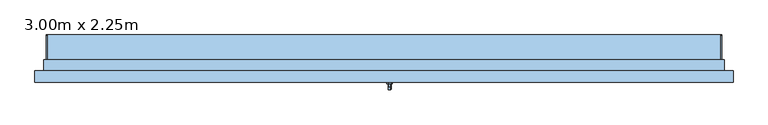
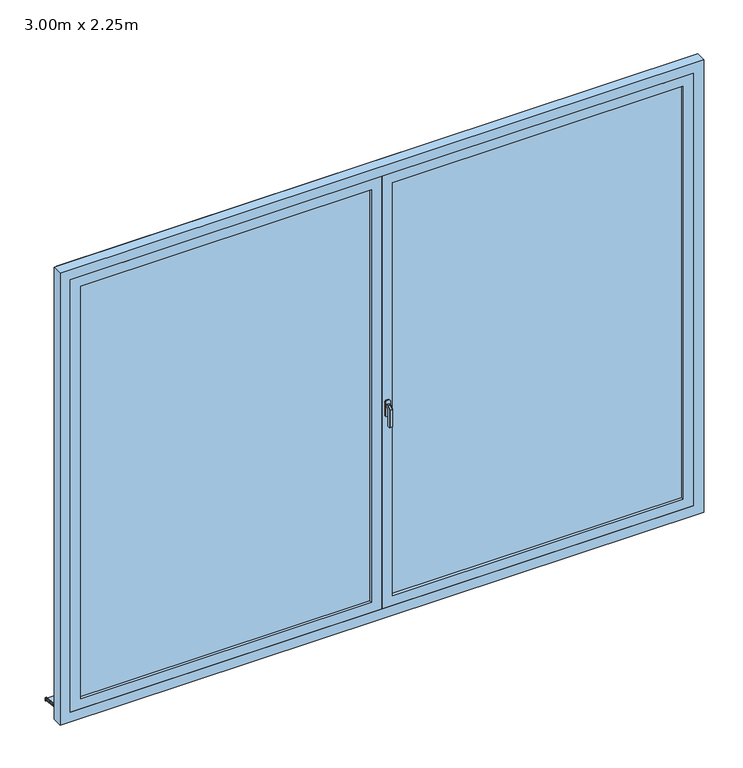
"""IFC4 building model written with IfcOpenShell, lengths in millimetres: window geometry, PF 2 Vantaux - Droits : 3.00m x 2.25m."""

import ifcopenshell
import ifcopenshell.guid

model = None  # the IFC model being written
_history = None  # IfcOwnerHistory: only IFC2X3 demands one
_inside = {}  # id of a spatial element -> (the spatial element, [elements in it])
_under = {}  # id of a project, library or spatial element -> (it, [spatial elements below it])
_declared = {}  # id of a project -> (the project, [libraries it declares])
_typed = {}  # id of a type object -> (the type object, [elements of that type])
_made_of = {}  # id of a material, layer set ... -> (it, [elements and type objects made of it])


def new_model(schema):
    """Start an empty IFC model of exactly this schema.

    Asked for "IFC4X3", IfcOpenShell would pick the latest addendum, in which some entities
    have other attributes; the version numbers below select the first issue.
    IFC2X3 requires an IfcOwnerHistory on every rooted entity: one is made here for all.
    """
    global model, _history
    if schema == "IFC4X3":
        model = ifcopenshell.file(schema_version=(4, 3, 0, 0))
    else:
        model = ifcopenshell.file(schema=schema)
    _inside.clear()
    _under.clear()
    _declared.clear()
    _typed.clear()
    _made_of.clear()
    _history = None
    if model.schema == "IFC2X3":
        org = make("IfcOrganization", Name="unknown")
        user = make(
            "IfcPersonAndOrganization",
            ThePerson=make("IfcPerson", FamilyName="unknown"),
            TheOrganization=org,
        )
        app = make(
            "IfcApplication",
            ApplicationDeveloper=org,
            Version="unknown",
            ApplicationFullName="unknown",
            ApplicationIdentifier="unknown",
        )
        _history = make(
            "IfcOwnerHistory",
            OwningUser=user,
            OwningApplication=app,
            ChangeAction="ADDED",
            CreationDate=0,
        )
    return model


def make(cls, **values):
    """One entity of the class cls with the attributes given. An attribute that is None is left unset."""
    return model.create_entity(
        cls, **{name: value for name, value in values.items() if value is not None}
    )


def rooted(cls, **values):
    """An entity with a GlobalId (a new one), such as an element, a storey or a relation."""
    return make(cls, GlobalId=ifcopenshell.guid.new(), OwnerHistory=_history, **values)


def si_unit(unit_type, name, prefix=None):
    """IfcSIUnit, for example si_unit("LENGTHUNIT", "METRE", prefix="MILLI")."""
    return make("IfcSIUnit", UnitType=unit_type, Prefix=prefix, Name=name)


def assignment(units):
    """IfcUnitAssignment: the units of a project."""
    return None if units is None else make("IfcUnitAssignment", Units=units)


def point(xyz):
    """IfcCartesianPoint."""
    return None if xyz is None else make("IfcCartesianPoint", Coordinates=xyz)


def direction(xyz):
    """IfcDirection."""
    return None if xyz is None else make("IfcDirection", DirectionRatios=xyz)


def frame(location, z_axis=None, x_axis=None):
    """IfcAxis2Placement3D, a coordinate frame: its origin and axes. An axis left out is left unset."""
    return make(
        "IfcAxis2Placement3D",
        Location=point(location),
        Axis=direction(z_axis),
        RefDirection=direction(x_axis),
    )


def frame_2d(location, x_axis=None):
    """IfcAxis2Placement2D, a coordinate frame in the plane: its origin and x axis."""
    return make(
        "IfcAxis2Placement2D", Location=point(location), RefDirection=direction(x_axis)
    )


def origin():
    """The frame at (0, 0, 0) with its axes left unset."""
    return frame((0.0, 0.0, 0.0))


def place(relative_to, where):
    """IfcLocalPlacement: puts the frame where relative to a parent placement (None: the world)."""
    return make(
        "IfcLocalPlacement", PlacementRelTo=relative_to, RelativePlacement=where
    )


def context(
    kind, dimensions, precision=None, world=None, true_north=None, identifier=None
):
    """IfcGeometricRepresentationContext, for example the 3D "Model" context."""
    return make(
        "IfcGeometricRepresentationContext",
        ContextIdentifier=identifier,
        ContextType=kind,
        CoordinateSpaceDimension=dimensions,
        Precision=precision,
        WorldCoordinateSystem=world,
        TrueNorth=true_north,
    )


def project(units=None, contexts=None):
    """IfcProject with its units and contexts."""
    return rooted(
        "IfcProject",
        Name="project",
        RepresentationContexts=contexts,
        UnitsInContext=assignment(units),
    )


def spatial(cls, under=None, at=None, **own):
    """A site, building, storey or space (cls), placed at a placement, below another one or the project."""
    s = rooted(cls, ObjectPlacement=at, **own)
    if under is not None:
        _under.setdefault(under.id(), (under, []))[1].append(s)
    return s


def polyline(points):
    """IfcPolyline through the points."""
    return make("IfcPolyline", Points=[point(p) for p in points])


def circle_curve(where, radius):
    """IfcCircle in the frame where."""
    return make("IfcCircle", Position=where, Radius=radius)


def trimmed(basis, trim1, trim2, sense, master):
    """IfcTrimmedCurve: the piece of a basis curve between two trims."""
    return make(
        "IfcTrimmedCurve",
        BasisCurve=basis,
        Trim1=trim1,
        Trim2=trim2,
        SenseAgreement=sense,
        MasterRepresentation=master,
    )


def segment(curve, same_sense, transition):
    """IfcCompositeCurveSegment."""
    return make(
        "IfcCompositeCurveSegment",
        Transition=transition,
        SameSense=same_sense,
        ParentCurve=curve,
    )


def composite_curve(segments, self_intersect=None):
    """IfcCompositeCurve: segments joined end to end."""
    return make("IfcCompositeCurve", Segments=segments, SelfIntersect=self_intersect)


def outline(outer, holes=None, kind="AREA"):
    """IfcArbitraryClosedProfileDef: a profile drawn as a closed curve; with holes, ...WithVoids."""
    if holes is None:
        return make("IfcArbitraryClosedProfileDef", ProfileType=kind, OuterCurve=outer)
    return make(
        "IfcArbitraryProfileDefWithVoids",
        ProfileType=kind,
        OuterCurve=outer,
        InnerCurves=holes,
    )


def extrude(swept, where, along, depth):
    """IfcExtrudedAreaSolid: the profile swept, set in the frame where, extruded along a direction by depth."""
    return make(
        "IfcExtrudedAreaSolid",
        SweptArea=swept,
        Position=where,
        ExtrudedDirection=direction(along),
        Depth=depth,
    )


def faces_of(points, faces, orient=None, outer=None):
    """IfcFace entities. A face is a list of loops; a loop is a list of indices into points, from 0.

    orient and outer hold one flag for each loop. By default every Orientation is true, the
    first loop of a face is its IfcFaceOuterBound and the others are IfcFaceBound.
    """
    made = []
    for i, loops in enumerate(faces):
        bounds = []
        for j, loop in enumerate(loops):
            is_outer = j == 0 if outer is None else outer[i][j]
            bounds.append(
                make(
                    "IfcFaceOuterBound" if is_outer else "IfcFaceBound",
                    Bound=make("IfcPolyLoop", Polygon=[points[k] for k in loop]),
                    Orientation=True if orient is None else orient[i][j],
                )
            )
        made.append(make("IfcFace", Bounds=bounds))
    return made


def faceted_brep(points, faces, orient=None, outer=None, voids=None):
    """IfcFacetedBrep: a solid bounded by flat faces; with voids (closed shells), ...WithVoids."""
    shared = [point(p) for p in points]
    hull = make("IfcClosedShell", CfsFaces=faces_of(shared, faces, orient, outer))
    if voids is None:
        return make("IfcFacetedBrep", Outer=hull)
    return make(
        "IfcFacetedBrepWithVoids",
        Outer=hull,
        Voids=[
            make(cls, CfsFaces=faces_of(shared, fs, o, b)) for cls, fs, o, b in voids
        ],
    )


def shape(context_of_items, identifier, shape_type, items):
    """IfcShapeRepresentation: the items that make up one representation, for example the "Body"."""
    return make(
        "IfcShapeRepresentation",
        ContextOfItems=context_of_items,
        RepresentationIdentifier=identifier,
        RepresentationType=shape_type,
        Items=items,
    )


def source(mapping_origin, context_of_items, identifier, shape_type, items):
    """IfcRepresentationMap: a shape defined once, which mapped items show again and again."""
    return make(
        "IfcRepresentationMap",
        MappingOrigin=mapping_origin,
        MappedRepresentation=shape(context_of_items, identifier, shape_type, items),
    )


def transform(
    local_origin,
    x_axis=None,
    y_axis=None,
    z_axis=None,
    scale=None,
    scale2=None,
    scale3=None,
    uniform=True,
):
    """IfcCartesianTransformationOperator3D, or its non-uniform kind. x_axis, y_axis, z_axis: its Axis1, 2, 3."""
    if uniform:
        return make(
            "IfcCartesianTransformationOperator3D",
            Axis1=direction(x_axis),
            Axis2=direction(y_axis),
            LocalOrigin=point(local_origin),
            Scale=scale,
            Axis3=direction(z_axis),
        )
    return make(
        "IfcCartesianTransformationOperator3DnonUniform",
        Axis1=direction(x_axis),
        Axis2=direction(y_axis),
        LocalOrigin=point(local_origin),
        Scale=scale,
        Axis3=direction(z_axis),
        Scale2=scale2,
        Scale3=scale3,
    )


def mapped(mapping_source, mapping_target):
    """IfcMappedItem: shows the shape of a source again, moved by a transform."""
    return make(
        "IfcMappedItem", MappingSource=mapping_source, MappingTarget=mapping_target
    )


def made_of(thing, what):
    """Note that an element or type object is made of a material, layer set ...; save() writes the relation."""
    if what is not None:
        _made_of.setdefault(what.id(), (what, []))[1].append(thing)
    return thing


def element(
    cls,
    number,
    at=None,
    inside=None,
    cuts=None,
    type_object=None,
    material=None,
    context=None,
    identifier="Body",
    shape_type=None,
    held_by="IfcProductDefinitionShape",
    body=None,
    shapes=None,
    **own,
):
    """One element of the class cls, such as IfcWall. Its Tag is "e" and its number.

    at: its placement. inside: the storey or other place that contains it. cuts: it is an
    opening in that element (IfcRelVoidsElement). A single representation is given by context,
    identifier, shape_type and body (its items); several are given by shapes. held_by: the class
    of the entity that holds the representations. save() writes the other relations.
    """
    e = rooted(cls, Tag="e%d" % number, ObjectPlacement=at, **own)
    if body is not None:
        shapes = [shape(context, identifier, shape_type, body)]
    if shapes is not None:
        e.Representation = make(held_by, Representations=shapes)
    if inside is not None:
        _inside.setdefault(inside.id(), (inside, []))[1].append(e)
    if cuts is not None:
        rooted(
            "IfcRelVoidsElement", RelatingBuildingElement=cuts, RelatedOpeningElement=e
        )
    if type_object is not None:
        _typed.setdefault(type_object.id(), (type_object, []))[1].append(e)
    return made_of(e, material)


def aggregate(whole, parts):
    """IfcRelAggregates: a whole, such as a stair, and the parts it consists of."""
    return rooted("IfcRelAggregates", RelatingObject=whole, RelatedObjects=parts)


def save(model, path):
    """Write the relations noted so far, then the file.

    IfcRelAggregates (storeys below a building ...), IfcRelContainedInSpatialStructure (elements
    in a storey), IfcRelDefinesByType, IfcRelAssociatesMaterial and IfcRelDeclares: one each for
    every whole, place, type object, material and project.
    """
    for whole, parts in _under.values():
        aggregate(whole, parts)
    for where, things in _inside.values():
        rooted(
            "IfcRelContainedInSpatialStructure",
            RelatedElements=things,
            RelatingStructure=where,
        )
    for kind, things in _typed.values():
        rooted("IfcRelDefinesByType", RelatedObjects=things, RelatingType=kind)
    for what, things in _made_of.values():
        rooted("IfcRelAssociatesMaterial", RelatedObjects=things, RelatingMaterial=what)
    for by, libraries in _declared.values():
        rooted("IfcRelDeclares", RelatingContext=by, RelatedDefinitions=libraries)
    model.write(path)


def window_3_00m_x_2_25m_97a37025(model_context):
    return source(origin(), model_context, "Body", "SolidModel", [
        faceted_brep([(30.6460097, -106.0, 1122.0339292), (32.0339292, -106.0, 1120.6460097), (32.0339292, -106.0, 1109.3323012), (30.6676988, -106.0, 1107.9660708), (19.3323012, -106.0, 1107.9660708), (17.9660708, -106.0, 1109.3323012), (17.9660708, -106.0, 1120.6460097), (19.3539903, -106.0, 1122.0339292), (30.6460097, -118.9135489, 1122.0339292), (32.0339292, -118.3386538, 1120.6460097), (32.0339292, -131.6460097, 1107.3386538), (32.0339292, -131.6460097, 1020.0), (32.0339292, -120.3323012, 1020.0), (32.0339292, -120.3323012, 1102.6523623), (32.0339292, -113.6523623, 1109.3323012), (30.6676988, -113.0864511, 1107.9660708), (19.3323012, -113.0864511, 1107.9660708), (17.9660708, -113.6523623, 1109.3323012), (17.9660708, -120.3323012, 1102.6523623), (17.9660708, -120.3323012, 1020.0), (17.9660708, -131.6460097, 1020.0), (17.9660708, -131.6460097, 1107.3386538), (17.9660708, -118.3386538, 1120.6460097), (19.3539903, -118.9135489, 1122.0339292), (30.6460097, -133.0339292, 1107.9135489), (30.6676988, -118.9660708, 1102.0864511), (19.3323012, -118.9660708, 1102.0864511), (19.3539903, -133.0339292, 1107.9135489), (30.6460097, -133.0339292, 1020.0), (19.3539903, -133.0339292, 1020.0), (19.3323012, -118.9660708, 1020.0), (30.6676988, -118.9660708, 1020.0)], [[[0, 1, 2, 3, 4, 5, 6, 7]], [[1, 0, 8, 9]], [[2, 1, 9, 10, 11, 12, 13, 14]], [[3, 2, 14, 15]], [[4, 3, 15, 16]], [[5, 4, 16, 17]], [[6, 5, 17, 18, 19, 20, 21, 22]], [[7, 6, 22, 23]], [[0, 7, 23, 8]], [[9, 8, 24, 10]], [[15, 14, 13, 25]], [[16, 15, 25, 26]], [[17, 16, 26, 18]], [[23, 22, 21, 27]], [[8, 23, 27, 24]], [[28, 29, 20, 19, 30, 31, 12, 11]], [[10, 24, 28, 11]], [[25, 13, 12, 31]], [[26, 25, 31, 30]], [[18, 26, 30, 19]], [[27, 21, 20, 29]], [[24, 27, 29, 28]]]),
        extrude(outline(polyline([(1140.0, 32.0), (1140.0, 18.0), (1135.0, 13.0), (1065.0, 13.0), (1060.0, 18.0), (1060.0, 32.0), (1065.0, 37.0), (1135.0, 37.0), (1140.0, 32.0)])), frame((0.0, -106.0, 0.0), z_axis=(0.0, 1.0, 0.0), x_axis=(0.0, 0.0, 1.0)), (0.0, 0.0, 1.0), 6.0),
        extrude(outline(polyline([(110.0288776, 26.588626), (110.0288776, 15.5104235), (105.0288776, 16.0359447), (105.0288776, 21.8589354), (-20.0, 35.0), (-20.0, 50.0), (-15.0, 50.0), (-15.0, 39.7296906), (110.0288776, 26.588626)])), frame((-1500.0, 0.0, 0.0), z_axis=(1.0, 0.0, 0.0), x_axis=(0.0, 1.0, 0.0)), (0.0, 0.0, 1.0), 3000.0),
        extrude(outline(composite_curve([segment(polyline([(110.0288776, 26.588626), (-15.0, 39.7296906), (-15.0, 44.757232), (106.4469915, 31.9926388)]), True, "CONTINUOUS"), segment(trimmed(circle_curve(frame_2d((106.0288776, 28.0145512)), 4.0), [point((106.4469915, 31.9926388))], [point((110.0288776, 28.0145512))], False, "CARTESIAN"), True, "CONTINUOUS"), segment(polyline([(110.0288776, 28.0145512), (110.0288776, 26.588626)]), True, "CONTINUOUS")], self_intersect=False)), frame((-1500.0, 0.0, 0.0), z_axis=(1.0, 0.0, 0.0), x_axis=(0.0, 1.0, 0.0)), (0.0, 0.0, 1.0), 5.0),
        extrude(outline(composite_curve([segment(polyline([(110.0288776, 26.588626), (-15.0, 39.7296906), (-15.0, 44.757232), (106.4469915, 31.9926388)]), True, "CONTINUOUS"), segment(trimmed(circle_curve(frame_2d((106.0288776, 28.0145512)), 4.0), [point((106.4469915, 31.9926388))], [point((110.0288776, 28.0145512))], False, "CARTESIAN"), True, "CONTINUOUS"), segment(polyline([(110.0288776, 28.0145512), (110.0288776, 26.588626)]), True, "CONTINUOUS")], self_intersect=False)), frame((1495.0, 0.0, 0.0), z_axis=(1.0, 0.0, 0.0), x_axis=(0.0, 1.0, 0.0)), (0.0, 0.0, 1.0), 5.0),
        extrude(outline(polyline([(85.0, 0.0), (2285.0, 0.0), (2285.0, -1500.0), (85.0, -1500.0), (85.0, 0.0)]), holes=[polyline([(135.0, -1450.0), (2235.0, -1450.0), (2235.0, -50.0), (135.0, -50.0), (135.0, -1450.0)])]), frame((0.0, -100.0, 0.0), z_axis=(0.0, 1.0, 0.0), x_axis=(0.0, 0.0, 1.0)), (0.0, 0.0, 1.0), 40.0),
        extrude(outline(polyline([(50.0, -74.0), (1450.0, -74.0), (1450.0, -86.0), (50.0, -86.0), (50.0, -74.0)])), frame((0.0, 0.0, 135.0), z_axis=(0.0, 0.0, 1.0), x_axis=(1.0, 0.0, 0.0)), (0.0, 0.0, 1.0), 2100.0),
        extrude(outline(polyline([(-1450.0, -74.0), (-50.0, -74.0), (-50.0, -86.0), (-1450.0, -86.0), (-1450.0, -74.0)])), frame((0.0, 0.0, 135.0), z_axis=(0.0, 0.0, 1.0), x_axis=(1.0, 0.0, 0.0)), (0.0, 0.0, 1.0), 2100.0),
        extrude(outline(polyline([(85.0, 1500.0), (2285.0, 1500.0), (2285.0, 0.0), (85.0, 0.0), (85.0, 1500.0)]), holes=[polyline([(135.0, 50.0), (2235.0, 50.0), (2235.0, 1450.0), (135.0, 1450.0), (135.0, 50.0)])]), frame((0.0, -100.0, 0.0), z_axis=(0.0, 1.0, 0.0), x_axis=(0.0, 0.0, 1.0)), (0.0, 0.0, 1.0), 40.0),
        extrude(outline(polyline([(35.0, -1510.0), (35.0, -1500.0), (2285.0, -1500.0), (2285.0, 1500.0), (35.0, 1500.0), (35.0, 1510.0), (2295.0, 1510.0), (2295.0, -1510.0), (35.0, -1510.0)])), frame((0.0, -50.0, 0.0), z_axis=(0.0, 1.0, 0.0), x_axis=(0.0, 0.0, 1.0)), (0.0, 0.0, 1.0), 50.0),
        faceted_brep([(-1550.0, -100.0, 35.0), (-1550.0, -50.0, 35.0), (-1500.0, -50.0, 35.0), (-1500.0, -20.0, 35.0), (1500.0, -20.0, 35.0), (1500.0, -50.0, 35.0), (1550.0, -50.0, 35.0), (1550.0, -100.0, 35.0), (-1550.0, -100.0, 2335.0), (-1550.0, -50.0, 2335.0), (1550.0, -50.0, 2335.0), (1500.0, -50.0, 74.3761425), (-1500.0, -50.0, 74.3761425), (-1485.0, -50.0, 2270.0), (-1485.0, -50.0, 100.0), (1485.0, -50.0, 100.0), (1485.0, -50.0, 2270.0), (-1500.0, 0.0, 60.9786829), (-1500.0, 0.0, 45.0), (-1500.0, -10.0, 45.0), (-1500.0, -10.0, 50.0), (-1500.0, -20.0, 50.0), (1500.0, -20.0, 50.0), (1500.0, -10.0, 50.0), (1500.0, -10.0, 45.0), (1500.0, 0.0, 45.0), (1500.0, 0.0, 60.9786829), (1550.0, -100.0, 2335.0), (1500.0, -100.0, 2285.0), (1500.0, -100.0, 85.0), (-1500.0, -100.0, 85.0), (-1500.0, -100.0, 2285.0), (-1485.0, -60.0, 2270.0), (-1485.0, -60.0, 100.0), (1485.0, -60.0, 100.0), (1485.0, -60.0, 2270.0), (1500.0, -60.0, 2285.0), (-1500.0, -60.0, 2285.0), (-1500.0, -60.0, 85.0), (1500.0, -60.0, 85.0)], [[[0, 1, 2, 3, 4, 5, 6, 7]], [[1, 0, 8, 9]], [[1, 9, 10, 6, 5, 11, 12, 2], [13, 14, 15, 16]], [[12, 17, 18, 19, 20, 21, 3, 2]], [[3, 21, 22, 4]], [[4, 22, 23, 24, 25, 26, 11, 5]], [[6, 10, 27, 7]], [[0, 7, 27, 8], [28, 29, 30, 31]], [[13, 32, 33, 14]], [[33, 34, 15, 14]], [[35, 16, 15, 34]], [[17, 12, 11, 26]], [[36, 37, 38, 39], [32, 35, 34, 33]], [[38, 37, 31, 30]], [[30, 29, 39, 38]], [[28, 36, 39, 29]], [[18, 17, 26, 25]], [[19, 18, 25, 24]], [[20, 19, 24, 23]], [[21, 20, 23, 22]], [[13, 16, 35, 32]], [[10, 9, 8, 27]], [[37, 36, 28, 31]]]),
        extrude(outline(polyline([(20.0, -52.0), (20.0, -60.0), (-20.0, -60.0), (-20.0, -52.0), (20.0, -52.0)])), frame((0.0, 0.0, 100.0), z_axis=(0.0, 0.0, 1.0), x_axis=(1.0, 0.0, 0.0)), (0.0, 0.0, 1.0), 2170.0),
    ])


if __name__ == "__main__":
    model = new_model("IFC4")
    model_context = context("Model", 3, world=origin())
    ifc_project = project(units=[si_unit("LENGTHUNIT", "METRE", prefix="MILLI")], contexts=[model_context])
    site = spatial("IfcSite", under=ifc_project)
    building = spatial("IfcBuilding", under=site)
    placement = place(None, origin())
    window_3_00m_x_2_25m_shape = window_3_00m_x_2_25m_97a37025(model_context)
    element("IfcWindow", 1, ObjectType="PF 2 Vantaux - Droits : 3.00m x 2.25m", at=placement, inside=building, context=model_context, shape_type="MappedRepresentation", body=[
        mapped(window_3_00m_x_2_25m_shape, transform((0.0, 0.0, 0.0), x_axis=(1.0, 0.0, 0.0), y_axis=(0.0, 1.0, 0.0), z_axis=(0.0, 0.0, 1.0))),
    ])
    save(model, "model.ifc")
